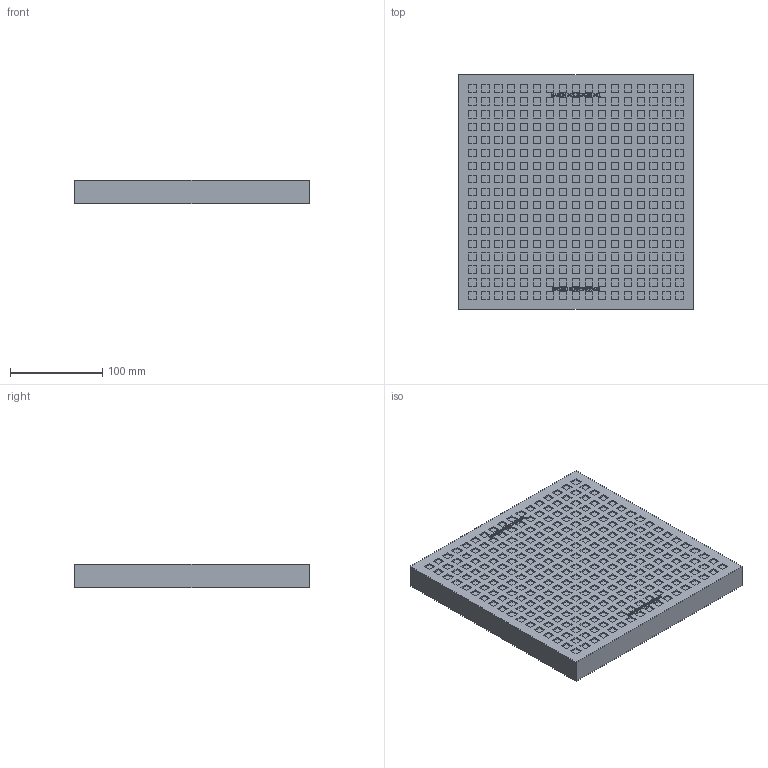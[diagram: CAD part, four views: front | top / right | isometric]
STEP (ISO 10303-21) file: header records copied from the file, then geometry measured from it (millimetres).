
FILE_DESCRIPTION(/* description */ (''),/* implementation_level */ '2;1');
FILE_NAME(/* name */ 'C:\001_Work\Designs\BBNR\BBNR 10 x 10 x 1.stp',/* time_stamp */ '2015-08-20T16:21:22-04:00',/* author */ ('rramoutar'),/* organization */ ('Mason Industries Inc.'),/* preprocessor_version */ 'ST-DEVELOPER v15.6',/* originating_system */ 'Autodesk Inventor 2015',/* authorisation */ '');
FILE_SCHEMA (('AUTOMOTIVE_DESIGN { 1 0 10303 214 3 1 1 }'));
Products named in the file (1): BBNR 10 x 10 x 1
Bounding box: 254 x 254 x 25.8 mm (x, y, z)
Volume: 1580026.2 mm3; surface area: 184430.6 mm2
Topology: 1 solids, 1 shells, 3868 faces, 9558 edges, 6372 vertices
Faces by surface type: plane 3516, bspline 352
Entity records: 115727 total; most frequent: CARTESIAN_POINT 25930, ORIENTED_EDGE 19116, DIRECTION 15888, EDGE_CURVE 9558, LINE 8854, VECTOR 8854, VERTEX_POINT 6372, EDGE_LOOP 4548
